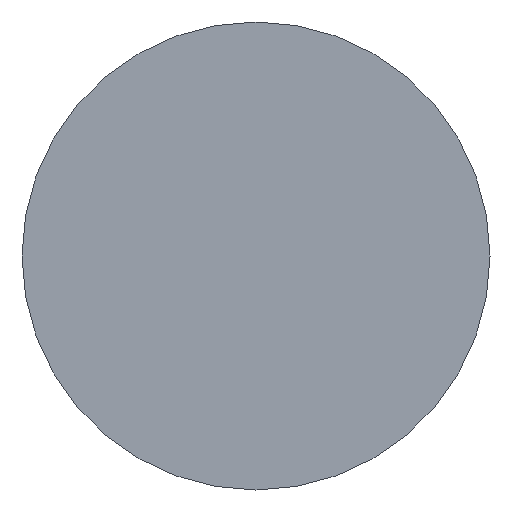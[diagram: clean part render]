
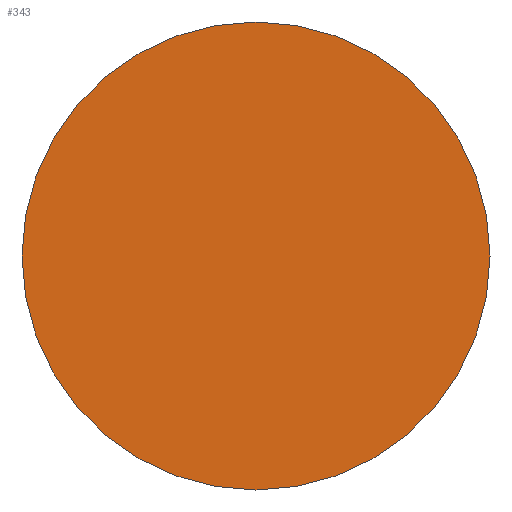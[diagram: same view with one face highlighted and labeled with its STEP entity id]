
A CAD part, left-side view. The second image highlights one B-rep face of the part: STEP entity #343.
In plain terms, the highlighted planar face has unit normal (-1, 0, 0).
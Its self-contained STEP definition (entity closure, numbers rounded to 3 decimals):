
#296=CARTESIAN_POINT('',(-424.185,-513.109,-20.497));
#297=VERTEX_POINT('',#296);
#304=CARTESIAN_POINT('',(-424.185,-463.109,-20.497));
#305=VERTEX_POINT('',#304);
#306=CARTESIAN_POINT('',(-424.185,-488.109,-20.497));
#307=DIRECTION('',(-1.0,0.0,0.0));
#308=DIRECTION('',(0.0,-1.0,0.0));
#309=AXIS2_PLACEMENT_3D('',#306,#307,#308);
#310=CIRCLE('',#309,25.0);
#311=EDGE_CURVE('',#305,#297,#310,.T.);
#313=CARTESIAN_POINT('',(-424.185,-488.109,-20.497));
#314=DIRECTION('',(-1.0,0.0,0.0));
#315=DIRECTION('',(0.0,-1.0,0.0));
#316=AXIS2_PLACEMENT_3D('',#313,#314,#315);
#317=CIRCLE('',#316,25.0);
#318=EDGE_CURVE('',#297,#305,#317,.T.);
#334=CARTESIAN_POINT('',(-424.185,-458.109,-50.497));
#335=DIRECTION('',(-1.0,0.0,0.0));
#336=DIRECTION('',(0.0,-1.0,0.0));
#337=AXIS2_PLACEMENT_3D('',#334,#335,#336);
#338=PLANE('',#337);
#339=ORIENTED_EDGE('',*,*,#318,.T.);
#340=ORIENTED_EDGE('',*,*,#311,.T.);
#341=EDGE_LOOP('',(#339,#340));
#342=FACE_OUTER_BOUND('',#341,.T.);
#343=ADVANCED_FACE('',(#342),#338,.T.);
